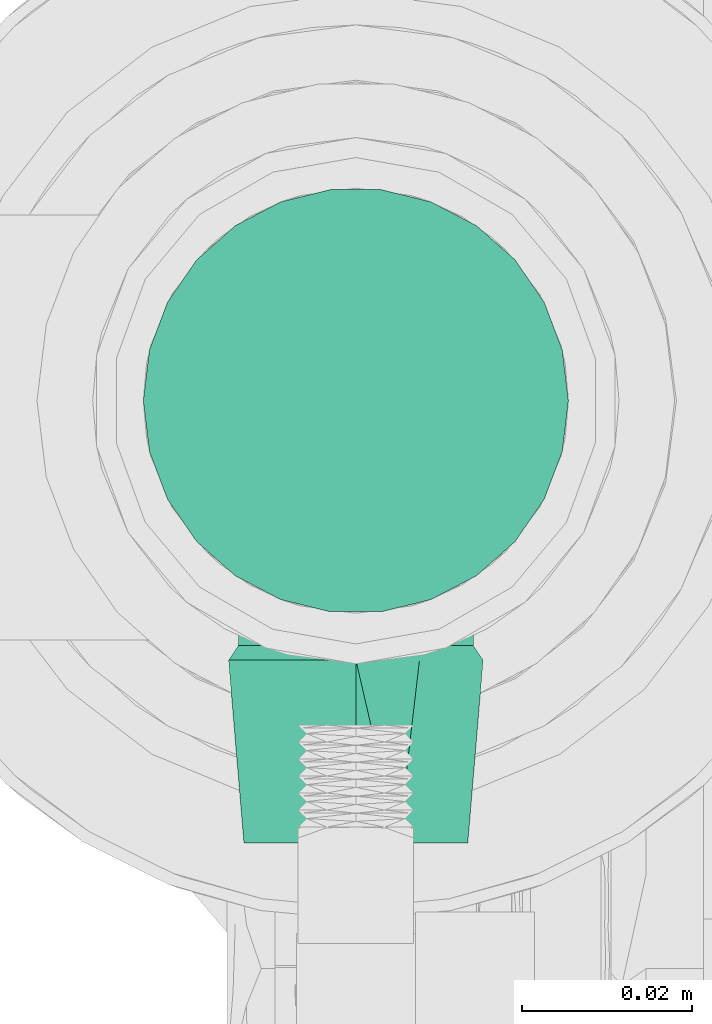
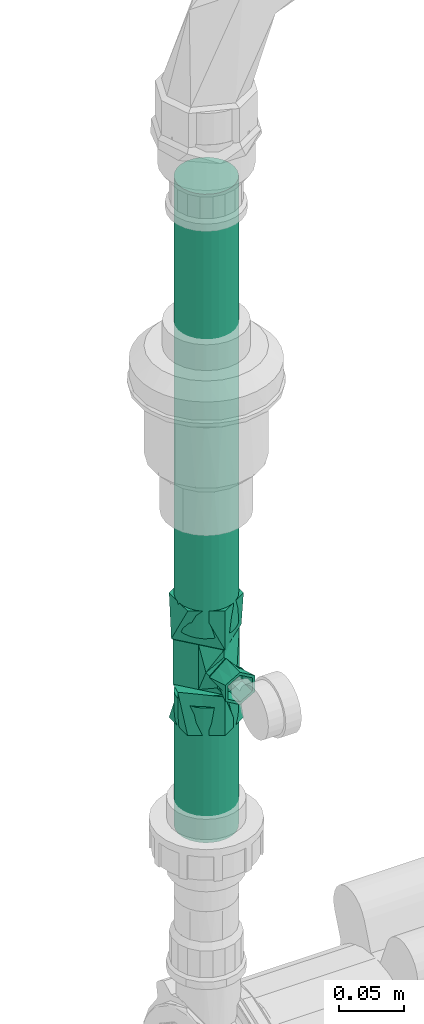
# One storey, part 69 of 166: 2 flow segments, 1 flow fitting.
"""IFC2X3 building model written with IfcOpenShell, lengths in metres."""

import ifcopenshell
import ifcopenshell.guid

model = None  # the IFC model being written
_history = None  # IfcOwnerHistory: only IFC2X3 demands one
_inside = {}  # id of a spatial element -> (the spatial element, [elements in it])
_under = {}  # id of a project, library or spatial element -> (it, [spatial elements below it])
_declared = {}  # id of a project -> (the project, [libraries it declares])
_typed = {}  # id of a type object -> (the type object, [elements of that type])
_made_of = {}  # id of a material, layer set ... -> (it, [elements and type objects made of it])


def new_model(schema):
    """Start an empty IFC model of exactly this schema.

    Asked for "IFC4X3", IfcOpenShell would pick the latest addendum, in which some entities
    have other attributes; the version numbers below select the first issue.
    IFC2X3 requires an IfcOwnerHistory on every rooted entity: one is made here for all.
    """
    global model, _history
    if schema == "IFC4X3":
        model = ifcopenshell.file(schema_version=(4, 3, 0, 0))
    else:
        model = ifcopenshell.file(schema=schema)
    _inside.clear()
    _under.clear()
    _declared.clear()
    _typed.clear()
    _made_of.clear()
    _history = None
    if model.schema == "IFC2X3":
        org = make("IfcOrganization", Name="unknown")
        user = make(
            "IfcPersonAndOrganization",
            ThePerson=make("IfcPerson", FamilyName="unknown"),
            TheOrganization=org,
        )
        app = make(
            "IfcApplication",
            ApplicationDeveloper=org,
            Version="unknown",
            ApplicationFullName="unknown",
            ApplicationIdentifier="unknown",
        )
        _history = make(
            "IfcOwnerHistory",
            OwningUser=user,
            OwningApplication=app,
            ChangeAction="ADDED",
            CreationDate=0,
        )
    return model


def make(cls, **values):
    """One entity of the class cls with the attributes given. An attribute that is None is left unset."""
    return model.create_entity(
        cls, **{name: value for name, value in values.items() if value is not None}
    )


def entity(cls, *values):
    """Any entity or typed value of the class cls, its attributes in the order of the schema. None: left unset."""
    e = model.create_entity(cls)
    for i, value in enumerate(values):
        if value is not None:
            e[i] = value
    return e


def rooted(cls, **values):
    """An entity with a GlobalId (a new one), such as an element, a storey or a relation."""
    return make(cls, GlobalId=ifcopenshell.guid.new(), OwnerHistory=_history, **values)


def si_unit(unit_type, name, prefix=None):
    """IfcSIUnit, for example si_unit("LENGTHUNIT", "METRE", prefix="MILLI")."""
    return make("IfcSIUnit", UnitType=unit_type, Prefix=prefix, Name=name)


def converted_unit(unit_type, name, factor, base, dimensions=None, offset=None):
    """IfcConversionBasedUnit, such as the inch: factor (a typed value) times the base unit."""
    return make(
        "IfcConversionBasedUnit"
        if offset is None
        else "IfcConversionBasedUnitWithOffset",
        ConversionOffset=offset,
        Dimensions=None
        if dimensions is None
        else entity("IfcDimensionalExponents", *dimensions),
        UnitType=unit_type,
        Name=name,
        ConversionFactor=make(
            "IfcMeasureWithUnit", ValueComponent=factor, UnitComponent=base
        ),
    )


def assignment(units):
    """IfcUnitAssignment: the units of a project."""
    return None if units is None else make("IfcUnitAssignment", Units=units)


def point(xyz):
    """IfcCartesianPoint."""
    return None if xyz is None else make("IfcCartesianPoint", Coordinates=xyz)


def direction(xyz):
    """IfcDirection."""
    return None if xyz is None else make("IfcDirection", DirectionRatios=xyz)


def frame(location, z_axis=None, x_axis=None):
    """IfcAxis2Placement3D, a coordinate frame: its origin and axes. An axis left out is left unset."""
    return make(
        "IfcAxis2Placement3D",
        Location=point(location),
        Axis=direction(z_axis),
        RefDirection=direction(x_axis),
    )


def frame_2d(location, x_axis=None):
    """IfcAxis2Placement2D, a coordinate frame in the plane: its origin and x axis."""
    return make(
        "IfcAxis2Placement2D", Location=point(location), RefDirection=direction(x_axis)
    )


def origin():
    """The frame at (0, 0, 0) with its axes left unset."""
    return frame((0.0, 0.0, 0.0))


def origin_2d_with_axis():
    """The frame at (0, 0) in the plane with the x axis (1, 0) written out."""
    return frame_2d((0.0, 0.0), x_axis=(1.0, 0.0))


def place(relative_to, where):
    """IfcLocalPlacement: puts the frame where relative to a parent placement (None: the world)."""
    return make(
        "IfcLocalPlacement", PlacementRelTo=relative_to, RelativePlacement=where
    )


def context(
    kind, dimensions, precision=None, world=None, true_north=None, identifier=None
):
    """IfcGeometricRepresentationContext, for example the 3D "Model" context."""
    return make(
        "IfcGeometricRepresentationContext",
        ContextIdentifier=identifier,
        ContextType=kind,
        CoordinateSpaceDimension=dimensions,
        Precision=precision,
        WorldCoordinateSystem=world,
        TrueNorth=true_north,
    )


def subcontext(parent, identifier, kind, view, scale=None):
    """IfcGeometricRepresentationSubContext, for example "Body" below "Model"."""
    return make(
        "IfcGeometricRepresentationSubContext",
        ContextIdentifier=identifier,
        ContextType=kind,
        ParentContext=parent,
        TargetScale=scale,
        TargetView=view,
    )


def project(units=None, contexts=None):
    """IfcProject with its units and contexts."""
    return rooted(
        "IfcProject",
        Name="project",
        RepresentationContexts=contexts,
        UnitsInContext=assignment(units),
    )


def spatial(cls, under=None, at=None, **own):
    """A site, building, storey or space (cls), placed at a placement, below another one or the project."""
    s = rooted(cls, ObjectPlacement=at, **own)
    if under is not None:
        _under.setdefault(under.id(), (under, []))[1].append(s)
    return s


def profile(cls, at=None, kind="AREA", **sizes):
    """A parametric profile (cls). Its sizes go by their IFC names, for example OverallWidth=200.0."""
    return make(cls, ProfileType=kind, Position=at, **sizes)


def circle(**sizes):
    """IfcCircleProfileDef."""
    return profile("IfcCircleProfileDef", **sizes)


def extrude(swept, where, along, depth):
    """IfcExtrudedAreaSolid: the profile swept, set in the frame where, extruded along a direction by depth."""
    return make(
        "IfcExtrudedAreaSolid",
        SweptArea=swept,
        Position=where,
        ExtrudedDirection=direction(along),
        Depth=depth,
    )


def faces_of(points, faces, orient=None, outer=None):
    """IfcFace entities. A face is a list of loops; a loop is a list of indices into points, from 0.

    orient and outer hold one flag for each loop. By default every Orientation is true, the
    first loop of a face is its IfcFaceOuterBound and the others are IfcFaceBound.
    """
    made = []
    for i, loops in enumerate(faces):
        bounds = []
        for j, loop in enumerate(loops):
            is_outer = j == 0 if outer is None else outer[i][j]
            bounds.append(
                make(
                    "IfcFaceOuterBound" if is_outer else "IfcFaceBound",
                    Bound=make("IfcPolyLoop", Polygon=[points[k] for k in loop]),
                    Orientation=True if orient is None else orient[i][j],
                )
            )
        made.append(make("IfcFace", Bounds=bounds))
    return made


def faceted_brep(points, faces, orient=None, outer=None, voids=None):
    """IfcFacetedBrep: a solid bounded by flat faces; with voids (closed shells), ...WithVoids."""
    shared = [point(p) for p in points]
    hull = make("IfcClosedShell", CfsFaces=faces_of(shared, faces, orient, outer))
    if voids is None:
        return make("IfcFacetedBrep", Outer=hull)
    return make(
        "IfcFacetedBrepWithVoids",
        Outer=hull,
        Voids=[
            make(cls, CfsFaces=faces_of(shared, fs, o, b)) for cls, fs, o, b in voids
        ],
    )


def shape(context_of_items, identifier, shape_type, items):
    """IfcShapeRepresentation: the items that make up one representation, for example the "Body"."""
    return make(
        "IfcShapeRepresentation",
        ContextOfItems=context_of_items,
        RepresentationIdentifier=identifier,
        RepresentationType=shape_type,
        Items=items,
    )


def source(mapping_origin, context_of_items, identifier, shape_type, items):
    """IfcRepresentationMap: a shape defined once, which mapped items show again and again."""
    return make(
        "IfcRepresentationMap",
        MappingOrigin=mapping_origin,
        MappedRepresentation=shape(context_of_items, identifier, shape_type, items),
    )


def transform(
    local_origin,
    x_axis=None,
    y_axis=None,
    z_axis=None,
    scale=None,
    scale2=None,
    scale3=None,
    uniform=True,
):
    """IfcCartesianTransformationOperator3D, or its non-uniform kind. x_axis, y_axis, z_axis: its Axis1, 2, 3."""
    if uniform:
        return make(
            "IfcCartesianTransformationOperator3D",
            Axis1=direction(x_axis),
            Axis2=direction(y_axis),
            LocalOrigin=point(local_origin),
            Scale=scale,
            Axis3=direction(z_axis),
        )
    return make(
        "IfcCartesianTransformationOperator3DnonUniform",
        Axis1=direction(x_axis),
        Axis2=direction(y_axis),
        LocalOrigin=point(local_origin),
        Scale=scale,
        Axis3=direction(z_axis),
        Scale2=scale2,
        Scale3=scale3,
    )


def mapped(mapping_source, mapping_target):
    """IfcMappedItem: shows the shape of a source again, moved by a transform."""
    return make(
        "IfcMappedItem", MappingSource=mapping_source, MappingTarget=mapping_target
    )


def material(Name=None, Category=None):
    """IfcMaterial."""
    return make("IfcMaterial", Name=Name, Category=Category)


def made_of(thing, what):
    """Note that an element or type object is made of a material, layer set ...; save() writes the relation."""
    if what is not None:
        _made_of.setdefault(what.id(), (what, []))[1].append(thing)
    return thing


def type_object(cls, material=None, **own):
    """A type object (cls), such as IfcWallType, which elements share."""
    return made_of(rooted(cls, **own), material)


def type_shapes(of_type, sources):
    """Give a type object the sources (RepresentationMaps) that its elements show as mapped items."""
    of_type.RepresentationMaps = sources


def element(
    cls,
    number,
    at=None,
    inside=None,
    cuts=None,
    type_object=None,
    material=None,
    context=None,
    identifier="Body",
    shape_type=None,
    held_by="IfcProductDefinitionShape",
    body=None,
    shapes=None,
    **own,
):
    """One element of the class cls, such as IfcWall. Its Tag is "e" and its number.

    at: its placement. inside: the storey or other place that contains it. cuts: it is an
    opening in that element (IfcRelVoidsElement). A single representation is given by context,
    identifier, shape_type and body (its items); several are given by shapes. held_by: the class
    of the entity that holds the representations. save() writes the other relations.
    """
    e = rooted(cls, Tag="e%d" % number, ObjectPlacement=at, **own)
    if body is not None:
        shapes = [shape(context, identifier, shape_type, body)]
    if shapes is not None:
        e.Representation = make(held_by, Representations=shapes)
    if inside is not None:
        _inside.setdefault(inside.id(), (inside, []))[1].append(e)
    if cuts is not None:
        rooted(
            "IfcRelVoidsElement", RelatingBuildingElement=cuts, RelatedOpeningElement=e
        )
    if type_object is not None:
        _typed.setdefault(type_object.id(), (type_object, []))[1].append(e)
    return made_of(e, material)


def aggregate(whole, parts):
    """IfcRelAggregates: a whole, such as a stair, and the parts it consists of."""
    return rooted("IfcRelAggregates", RelatingObject=whole, RelatedObjects=parts)


def save(model, path):
    """Write the relations noted so far, then the file.

    IfcRelAggregates (storeys below a building ...), IfcRelContainedInSpatialStructure (elements
    in a storey), IfcRelDefinesByType, IfcRelAssociatesMaterial and IfcRelDeclares: one each for
    every whole, place, type object, material and project.
    """
    for whole, parts in _under.values():
        aggregate(whole, parts)
    for where, things in _inside.values():
        rooted(
            "IfcRelContainedInSpatialStructure",
            RelatedElements=things,
            RelatingStructure=where,
        )
    for kind, things in _typed.values():
        rooted("IfcRelDefinesByType", RelatedObjects=things, RelatingType=kind)
    for what, things in _made_of.values():
        rooted("IfcRelAssociatesMaterial", RelatedObjects=things, RelatingMaterial=what)
    for by, libraries in _declared.values():
        rooted("IfcRelDeclares", RelatingContext=by, RelatedDefinitions=libraries)
    model.write(path)


model = new_model("IFC2X3")

# Units and contexts
model_context = context("Model", 3, precision=1e-05, world=origin(), true_north=direction((6.123233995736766e-17, 1.0)))
body_context = subcontext(model_context, "Body", "Model", "MODEL_VIEW")
ifc_project = project(units=[si_unit("LENGTHUNIT", "METRE"), converted_unit("PLANEANGLEUNIT", "DEGREE", entity("IfcPlaneAngleMeasure", 0.017453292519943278), si_unit("PLANEANGLEUNIT", "RADIAN"), dimensions=[0, 0, 0, 0, 0, 0, 0]), si_unit("AREAUNIT", "SQUARE_METRE")], contexts=[model_context])

# Site, building, storey
site_placement = place(None, origin())
site = spatial("IfcSite", under=ifc_project, at=site_placement, Name="Default", CompositionType="ELEMENT")
building_placement = place(site_placement, origin())
building = spatial("IfcBuilding", under=site, at=building_placement, Name="CASA DE ACOLHIDA PARA IDOSOS", CompositionType="ELEMENT")
storey_placement = place(building_placement, frame((0.0, 0.0, -1.7499999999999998)))
storey = spatial("IfcBuildingStorey", under=building, at=storey_placement, Name="IMPLANTAÇÃO DRENAGEM", CompositionType="ELEMENT", Elevation=-1.7499999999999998)

# Flow segments
pipe_segment_type = type_object("IfcPipeSegmentType", Name="Tipos de tubos:AF_Tubo Marrom Soldável", PredefinedType="NOTDEFINED")
flow_segment_1_placement = place(storey_placement, origin())
element("IfcFlowSegment", 1, at=flow_segment_1_placement, inside=storey, type_object=pipe_segment_type, Name="Tipos de tubos:AF_Tubo Marrom Soldável", ObjectType="Tipos de tubos:AF_Tubo Marrom Soldável", context=body_context, shape_type="SweptSolid", body=[
    extrude(circle(Radius=0.025, at=origin_2d_with_axis()), frame((-60.770762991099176, 7.052060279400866, 0.39098476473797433), z_axis=(0.0, 0.0, 1.0), x_axis=(-1.0, 0.0, 0.0)), (0.0, 0.0, 1.0), 0.1264152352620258),
])
flow_segment_2_placement = place(storey_placement, origin())
element("IfcFlowSegment", 2, at=flow_segment_2_placement, inside=storey, type_object=pipe_segment_type, Name="Tipos de tubos:AF_Tubo Marrom Soldável", ObjectType="Tipos de tubos:AF_Tubo Marrom Soldável", context=body_context, shape_type="SweptSolid", body=[
    extrude(circle(Radius=0.025, at=origin_2d_with_axis()), frame((-60.770762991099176, 7.052060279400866, 0.5826000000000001), z_axis=(0.0, 0.0, 1.0), x_axis=(-1.0, 0.0, 0.0)), (0.0, 0.0, 1.0), 0.4174723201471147),
])

# Flow fitting
ifc_material = material(Name="PVC Branco")
pipe_fitting_type = type_object("IfcPipeFittingType", Name="AF_Roscavel_Te_Reducao:Standard", PredefinedType="NOTDEFINED", material=ifc_material)
shared_shape = source(origin(), body_context, "Body", "Brep", [
    faceted_brep([(-0.022099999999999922, 0.022730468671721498, -0.007053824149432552), (-0.022099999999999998, 0.028649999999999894, 0.0), (-0.021, 0.027149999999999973, 0.0), (-0.02099999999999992, 0.019184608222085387, -0.006684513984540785), (-0.020999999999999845, 0.011219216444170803, -0.013369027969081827), (-0.022099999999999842, 0.0168109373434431, -0.014107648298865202), (-0.020999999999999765, 0.0032538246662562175, -0.02005354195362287), (-0.022099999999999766, 0.010891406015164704, -0.02116147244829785), (-0.020999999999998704, -0.015930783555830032, -0.013369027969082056), (-0.022099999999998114, -0.020244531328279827, -0.007053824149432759), (-0.022099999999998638, -0.01183906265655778, -0.01410764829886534), (-0.020999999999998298, -0.02051095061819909, -0.007911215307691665), (-0.02209999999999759, -0.02865000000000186, 0.0), (-0.020999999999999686, -0.004711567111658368, -0.02673805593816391), (-0.02209999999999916, -0.0034335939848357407, -0.021161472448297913), (-0.022099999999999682, 0.004971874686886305, -0.028215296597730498), (-0.020999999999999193, -0.010321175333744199, -0.02005354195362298), (-0.02099999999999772, -0.027150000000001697, 0.0), (-0.02210000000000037, -0.022732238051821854, 0.007053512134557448), (-0.021000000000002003, -0.019182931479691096, 0.006684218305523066), (-0.021000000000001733, -0.011215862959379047, 0.013368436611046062), (-0.022100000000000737, -0.0168144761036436, 0.014107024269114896), (-0.021000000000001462, -0.0032487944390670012, 0.020052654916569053), (-0.022100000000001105, -0.010896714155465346, 0.021160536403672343), (-0.022100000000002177, 0.020242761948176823, 0.007053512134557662), (-0.02100000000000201, 0.021542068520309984, 0.006684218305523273), (-0.022100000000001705, 0.0034282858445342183, 0.021160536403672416), (-0.021000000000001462, 0.010326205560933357, 0.020052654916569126), (-0.022100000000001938, 0.01183552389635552, 0.014107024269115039), (-0.021000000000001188, 0.004718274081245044, 0.02673687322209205), (-0.022100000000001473, -0.004978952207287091, 0.028214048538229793), (-0.021000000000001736, 0.01593413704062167, 0.013368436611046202), (-0.02099999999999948, 0.018449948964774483, 0.010369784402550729), (0.021, 0.027149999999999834, 0.0), (0.021000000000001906, 0.004718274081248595, 0.026736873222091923), (0.021000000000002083, 0.010326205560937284, 0.02005265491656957), (0.021000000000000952, 0.015934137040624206, 0.013368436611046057), (0.021000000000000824, 0.020511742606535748, 0.007912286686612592), (0.021, -0.027150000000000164, 0.0), (0.0024774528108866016, -0.023369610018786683, 0.013819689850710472), (0.008258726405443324, -0.025259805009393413, 0.006909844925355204), (0.014040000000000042, -0.027150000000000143, 0.0), (-0.014039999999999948, -0.02715000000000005, 0.0), (-0.008913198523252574, -0.02597661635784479, 0.004289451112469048), (-0.0057812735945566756, -0.02525980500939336, 0.0069098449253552), (0.021000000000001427, -0.01918293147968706, 0.006684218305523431), (0.021000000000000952, -0.011215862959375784, 0.013368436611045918), (0.02100000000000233, -0.00324879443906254, 0.020052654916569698), (0.02099999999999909, 0.019607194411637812, -0.006329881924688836), (0.020999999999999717, 0.011219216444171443, -0.013369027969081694), (0.02099999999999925, 0.003253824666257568, -0.02005354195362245), (0.020999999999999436, -0.004711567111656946, -0.02673805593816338), (-0.0024814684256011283, -0.023370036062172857, -0.013818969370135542), (0.020999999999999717, -0.015930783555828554, -0.013369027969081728), (0.008912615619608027, -0.025976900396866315, -0.004288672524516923), (0.005779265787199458, -0.025260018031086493, -0.006909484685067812), (-0.00826073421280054, -0.025260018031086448, -0.006909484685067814), (0.020999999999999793, -0.020510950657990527, -0.007911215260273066), (0.020999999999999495, -0.010321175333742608, -0.020053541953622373), (0.02210000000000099, 0.01681093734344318, 0.014107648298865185), (0.022100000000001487, 0.01089140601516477, 0.021161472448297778), (0.022100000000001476, -0.012730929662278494, 0.013359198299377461), (0.022100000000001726, -0.003879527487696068, 0.020787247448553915), (0.022100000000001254, -0.020690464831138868, 0.006679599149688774), (0.022100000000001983, 0.004971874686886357, 0.02821529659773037), (0.0221, 0.028650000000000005, 0.0), (0.022100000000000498, 0.022730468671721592, 0.007053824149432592), (0.022100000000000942, -0.011839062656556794, 0.014107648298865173), (0.022100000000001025, -0.02864999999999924, 0.0), (0.022099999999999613, -0.009809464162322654, -0.022456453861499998), (0.022099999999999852, -0.021644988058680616, -0.008349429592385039), (0.02209999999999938, 0.0034282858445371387, -0.02116053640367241), (0.022099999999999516, -0.004978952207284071, -0.028214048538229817), (0.02209999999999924, 0.011835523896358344, -0.014107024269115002), (0.0220999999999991, 0.02024276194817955, -0.0070535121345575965), (0.02209999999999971, -0.014639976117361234, -0.01669885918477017), (0.022100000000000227, -0.016814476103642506, -0.014107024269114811), (-0.058500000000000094, -0.014325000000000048, -0.024811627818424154), (-0.058500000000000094, -0.025, 0.0), (-0.058500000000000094, -0.01997114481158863, -0.00871023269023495), (-0.0585000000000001, -0.019870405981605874, -0.015206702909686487), (-0.058500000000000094, -0.012500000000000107, -0.021650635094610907), (-0.058500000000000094, 0.0, -0.02165063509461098), (-0.058500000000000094, 0.012499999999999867, -0.021650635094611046), (-0.0585000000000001, 0.0, -0.024811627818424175), (-0.058500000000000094, -0.028650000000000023, 0.0), (-0.0585000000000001, -0.018750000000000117, 0.01082531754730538), (-0.058500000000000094, -0.012500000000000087, 0.021650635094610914), (-0.0585000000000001, -0.021487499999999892, 0.012405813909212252), (-0.058500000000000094, -0.014324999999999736, 0.02481162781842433), (-0.058500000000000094, 0.0, 0.021650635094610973), (-0.058500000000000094, 0.012499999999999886, 0.021650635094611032), (-0.0585000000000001, 0.0, 0.02481162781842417), (-0.058500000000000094, 0.014325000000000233, 0.024811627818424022), (-0.0585000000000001, 0.019870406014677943, 0.015206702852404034), (-0.058500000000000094, 0.02864999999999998, 0.0), (-0.058500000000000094, 0.019971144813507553, 0.00871023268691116), (-0.058500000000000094, 0.025, 0.0), (-0.0585000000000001, 0.021487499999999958, -0.012405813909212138), (-0.058500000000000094, 0.014324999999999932, -0.0248116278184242), (-0.058500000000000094, 0.018749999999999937, -0.010825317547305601), (0.0585000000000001, 0.021487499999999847, 0.012405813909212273), (0.058500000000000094, 0.028650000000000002, 0.0), (0.058500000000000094, -0.028650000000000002, 0.0), (0.0585000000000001, -0.01987040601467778, 0.015206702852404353), (0.0585000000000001, -0.021487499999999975, -0.012405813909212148), (0.0585000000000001, 0.019870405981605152, -0.015206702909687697), (0.058500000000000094, 0.014325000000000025, -0.024811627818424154), (0.058500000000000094, 0.024999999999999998, 0.0), (0.058500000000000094, 0.019971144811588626, -0.00871023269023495), (0.058500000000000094, 0.012500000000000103, -0.021650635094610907), (0.058500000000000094, 0.0, -0.02165063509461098), (0.058500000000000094, -0.012499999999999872, -0.021650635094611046), (0.0585000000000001, 0.0, -0.024811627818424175), (0.0585000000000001, 0.01875000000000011, 0.01082531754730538), (0.058500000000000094, 0.012500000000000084, 0.021650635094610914), (0.058500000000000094, 0.014324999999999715, 0.02481162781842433), (0.058500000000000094, 0.0, 0.021650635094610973), (0.058500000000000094, -0.012499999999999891, 0.021650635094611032), (0.0585000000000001, 0.0, 0.02481162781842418), (0.058500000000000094, -0.014325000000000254, 0.024811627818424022), (0.058500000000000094, -0.019971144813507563, 0.00871023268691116), (0.058500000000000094, -0.025000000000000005, 0.0), (0.058500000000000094, -0.014324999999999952, -0.0248116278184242), (0.058500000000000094, -0.018749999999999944, -0.010825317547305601), (-0.032600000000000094, -0.025, 0.0), (-0.032600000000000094, -0.019971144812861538, 0.00871023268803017), (-0.032600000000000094, -0.012500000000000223, 0.021650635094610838), (-0.032600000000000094, 0.0, 0.021650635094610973), (-0.032600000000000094, 0.012499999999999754, 0.02165063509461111), (-0.032600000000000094, 0.018749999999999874, 0.010825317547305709), (-0.032600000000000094, 0.025, 0.0), (-0.032600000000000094, 0.019971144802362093, -0.008710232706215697), (-0.032600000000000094, 0.012500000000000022, -0.021650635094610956), (-0.032600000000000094, 0.0, -0.02165063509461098), (-0.032600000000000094, -0.012499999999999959, -0.021650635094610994), (-0.032600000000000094, -0.018749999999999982, -0.010825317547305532), (0.03260000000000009, -0.025, 0.0), (0.032600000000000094, -0.018749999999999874, 0.010825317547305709), (0.032600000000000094, -0.012499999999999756, 0.02165063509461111), (0.032600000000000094, 0.0, 0.021650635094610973), (0.032600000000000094, 0.012500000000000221, 0.021650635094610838), (0.032600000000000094, 0.019971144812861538, 0.00871023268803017), (0.032600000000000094, 0.025, 0.0), (0.032600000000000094, 0.018749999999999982, -0.010825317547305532), (0.032600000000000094, 0.012499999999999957, -0.021650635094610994), (0.032600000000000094, 0.0, -0.02165063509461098), (0.032600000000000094, -0.012500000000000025, -0.021650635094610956), (0.032600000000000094, -0.019971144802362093, -0.008710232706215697), (0.012500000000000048, -0.03589999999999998, 0.0), (0.006250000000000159, -0.035899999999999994, 0.010825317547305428), (-0.0062499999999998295, -0.03590000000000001, 0.010825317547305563), (-0.012499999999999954, -0.03590000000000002, 0.0), (-0.006249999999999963, -0.03590000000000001, -0.010825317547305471), (0.006250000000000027, -0.035899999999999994, -0.01082531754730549), (0.012500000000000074, -0.05199999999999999, 0.0), (0.006250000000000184, -0.052, 0.010825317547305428), (-0.006249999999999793, -0.05200000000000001, 0.01082531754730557), (-0.01249999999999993, -0.052000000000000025, 0.0), (-0.006249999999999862, -0.05200000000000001, -0.010825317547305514), (0.006250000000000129, -0.052, -0.010825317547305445), (-0.011620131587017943, -0.028800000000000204, -0.0028835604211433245), (-0.01403999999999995, -0.02880000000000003, 0.0), (-0.002436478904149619, -0.028800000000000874, -0.013826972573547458), (-0.008238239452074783, -0.02880000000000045, -0.006913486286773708), (0.0030428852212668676, -0.028800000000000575, -0.009228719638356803), (0.014040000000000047, -0.02879999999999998, 0.0), (0.008541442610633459, -0.02880000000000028, -0.004614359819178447), (0.005801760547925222, -0.02880000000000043, -0.006913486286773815), (0.011620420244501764, -0.028799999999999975, 0.002883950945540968), (0.002439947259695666, -0.028799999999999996, 0.01382636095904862), (0.008239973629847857, -0.028799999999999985, 0.00691318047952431), (-0.0030421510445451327, -0.028800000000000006, 0.00922698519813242), (-0.008541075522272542, -0.028800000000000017, 0.004613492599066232), (-0.005800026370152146, -0.028800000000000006, 0.006913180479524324), (0.0026415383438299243, -0.030500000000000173, 0.01496870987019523), (0.008920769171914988, -0.03050000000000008, 0.007484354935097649), (0.010065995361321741, -0.030500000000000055, 0.006119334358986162), (0.015200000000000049, -0.03049999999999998, 0.0), (-0.015199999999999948, -0.03050000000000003, 0.0), (-0.006279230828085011, -0.0305000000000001, 0.007484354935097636), (-0.0026377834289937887, -0.030500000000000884, -0.01496937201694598), (-0.008918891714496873, -0.03050000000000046, -0.007484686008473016), (-0.010065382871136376, -0.030500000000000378, -0.006118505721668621), (0.006281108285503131, -0.03050000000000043, -0.007484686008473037), (0.007600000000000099, -0.052, -0.01316358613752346), (0.012327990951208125, -0.05199999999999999, -0.004974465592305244), (0.0, -0.052000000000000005, -0.01316358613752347), (0.015200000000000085, -0.051999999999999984, 0.0), (0.011400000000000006, -0.05199999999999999, 0.00658179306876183), (0.007599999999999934, -0.052, 0.013163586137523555), (0.0, -0.052000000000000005, 0.013163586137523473), (-0.007600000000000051, -0.05200000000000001, 0.01316358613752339), (-0.012327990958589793, -0.052000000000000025, 0.00497446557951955), (-0.015199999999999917, -0.05200000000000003, 0.0), (-0.011399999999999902, -0.052000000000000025, -0.006581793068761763), (-0.007599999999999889, -0.05200000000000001, -0.013163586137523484)], [[[0, 1, 2]], [[3, 4, 5]], [[6, 7, 4]], [[8, 9, 10]], [[11, 12, 9]], [[13, 14, 15]], [[14, 16, 10]], [[16, 14, 13]], [[2, 3, 0]], [[9, 8, 11]], [[11, 17, 12]], [[7, 6, 15]], [[6, 13, 15]], [[5, 4, 7]], [[16, 8, 10]], [[3, 5, 0]], [[18, 12, 17]], [[19, 20, 21]], [[22, 23, 20]], [[1, 24, 25]], [[25, 2, 1]], [[26, 27, 28]], [[29, 26, 30]], [[27, 26, 29]], [[17, 19, 18]], [[23, 22, 30]], [[24, 28, 31]], [[22, 29, 30]], [[21, 20, 23]], [[27, 31, 28]], [[19, 21, 18]], [[24, 31, 32, 25]], [[33, 2, 25, 32, 31, 27, 29, 34, 35, 36, 37]], [[38, 39, 40, 41]], [[20, 42, 43, 44, 39]], [[39, 38, 45, 46]], [[20, 39, 46]], [[34, 29, 22, 20, 46, 47]], [[42, 20, 19, 17]], [[4, 3, 2, 33, 48, 49, 50, 51, 13, 6]], [[51, 52, 13]], [[53, 41, 54, 55, 52]], [[8, 52, 56, 42]], [[42, 17, 11, 8]], [[41, 53, 57, 38]], [[52, 51, 58, 53]], [[52, 8, 16, 13]], [[36, 35, 59, 37]], [[34, 60, 35]], [[46, 45, 61]], [[47, 46, 62]], [[38, 63, 45]], [[64, 34, 47]], [[65, 33, 66]], [[60, 34, 64]], [[46, 61, 67, 62]], [[64, 47, 62]], [[33, 37, 66]], [[37, 59, 66]], [[63, 38, 68]], [[63, 61, 45]], [[60, 59, 35]], [[51, 69, 58]], [[68, 38, 70]], [[51, 71, 72]], [[73, 49, 74]], [[75, 53, 58]], [[33, 65, 48]], [[50, 73, 71]], [[53, 75, 76, 70]], [[48, 74, 49]], [[73, 50, 49]], [[51, 50, 71]], [[38, 57, 53, 70]], [[48, 65, 74]], [[69, 51, 72]], [[69, 75, 58]], [[77, 78, 79]], [[78, 77, 80]], [[77, 79, 81]], [[77, 81, 82]], [[77, 82, 83]], [[83, 84, 77]], [[78, 80, 85]], [[85, 86, 78]], [[85, 87, 86]], [[87, 85, 88]], [[87, 88, 89]], [[89, 90, 87]], [[89, 91, 90]], [[91, 89, 92]], [[91, 92, 93]], [[91, 93, 94]], [[91, 94, 95]], [[95, 96, 91]], [[95, 97, 96]], [[97, 95, 98]], [[97, 98, 99]], [[99, 83, 100]], [[83, 99, 84]], [[99, 100, 97]], [[28, 94, 93]], [[94, 28, 24, 1]], [[1, 95, 94]], [[65, 101, 102]], [[12, 88, 85]], [[68, 103, 104]], [[89, 21, 23, 30]], [[21, 89, 88]], [[88, 12, 18, 21]], [[92, 30, 26, 28]], [[30, 92, 89]], [[28, 93, 92]], [[10, 80, 77]], [[80, 10, 9, 12]], [[12, 85, 80]], [[68, 105, 103]], [[1, 98, 95]], [[65, 102, 106]], [[99, 5, 7, 15]], [[5, 99, 98]], [[98, 1, 0, 5]], [[15, 77, 84, 99]], [[77, 15, 14, 10]], [[107, 108, 109]], [[108, 107, 106]], [[107, 109, 110]], [[107, 110, 111]], [[107, 111, 112]], [[112, 113, 107]], [[108, 106, 102]], [[102, 114, 108]], [[102, 115, 114]], [[115, 102, 101]], [[115, 101, 116]], [[116, 117, 115]], [[116, 118, 117]], [[118, 116, 119]], [[118, 119, 120]], [[118, 120, 104]], [[118, 104, 103]], [[103, 121, 118]], [[103, 122, 121]], [[122, 103, 105]], [[122, 105, 123]], [[123, 112, 124]], [[112, 123, 113]], [[123, 124, 122]], [[67, 104, 120]], [[104, 67, 61, 63, 68]], [[116, 59, 60, 64]], [[59, 116, 101]], [[101, 65, 66, 59]], [[64, 120, 119, 116]], [[120, 64, 62, 67]], [[73, 106, 107]], [[106, 73, 74, 65]], [[123, 76, 75, 69, 72]], [[76, 123, 105]], [[105, 68, 70, 76]], [[113, 72, 71, 73]], [[72, 113, 123]], [[73, 107, 113]], [[125, 126, 127, 128, 129, 130, 131, 132, 133, 134, 135, 136]], [[87, 127, 126, 125, 78, 86]], [[137, 138, 139, 118, 121, 122]], [[129, 128, 127, 87, 90, 91]], [[139, 140, 141, 115, 117, 118]], [[131, 130, 129, 91, 96, 97]], [[115, 141, 142, 143, 108, 114]], [[83, 133, 132, 131, 97, 100]], [[143, 144, 145, 110, 109, 108]], [[135, 134, 133, 83, 82, 81]], [[145, 146, 147, 112, 111, 110]], [[125, 136, 135, 81, 79, 78]], [[112, 147, 148, 137, 122, 124]], [[143, 142, 141, 140, 139, 138, 137, 148, 147, 146, 145, 144]], [[149, 150, 151, 152, 153, 154]], [[155, 156, 150, 149]], [[156, 157, 151, 150]], [[157, 158, 152, 151]], [[158, 159, 153, 152]], [[159, 160, 154, 153]], [[160, 155, 149, 154]], [[42, 161, 162]], [[56, 163, 164, 161]], [[163, 56, 52]], [[165, 163, 52]], [[166, 167, 41]], [[55, 167, 168, 165]], [[55, 54, 41, 167]], [[165, 52, 55]], [[56, 161, 42]], [[41, 169, 166]], [[40, 170, 171, 169]], [[170, 40, 39]], [[172, 170, 39]], [[162, 173, 42]], [[44, 173, 174, 172]], [[44, 43, 42, 173]], [[172, 39, 44]], [[40, 169, 41]], [[175, 176, 177, 178, 166, 169, 171, 170]], [[170, 172, 174, 173, 162, 179, 180, 175]], [[181, 182, 183, 179, 162, 161, 164, 163]], [[163, 165, 168, 167, 166, 178, 184, 181]], [[185, 155, 160]], [[155, 185, 186]], [[185, 160, 159]], [[159, 187, 185]], [[155, 186, 188]], [[156, 155, 188]], [[156, 188, 189]], [[156, 189, 190]], [[156, 190, 157]], [[157, 190, 191]], [[157, 191, 192]], [[157, 192, 193]], [[157, 193, 194]], [[194, 158, 157]], [[158, 194, 195]], [[158, 195, 196]], [[196, 159, 158]], [[159, 196, 187]], [[180, 193, 192]], [[180, 179, 193]], [[179, 194, 193]], [[178, 189, 188]], [[175, 190, 176]], [[176, 190, 189]], [[189, 178, 177, 176]], [[180, 191, 175]], [[175, 191, 190]], [[180, 192, 191]], [[184, 186, 185]], [[184, 178, 186]], [[178, 188, 186]], [[179, 195, 194]], [[181, 196, 182]], [[182, 196, 195]], [[195, 179, 183, 182]], [[181, 185, 187, 196]], [[181, 184, 185]]]),
])
type_shapes(pipe_fitting_type, [shared_shape])
flow_fitting_placement = place(storey_placement, frame((-60.770762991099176, 7.052060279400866, 0.55), z_axis=(-1.0, 0.0, 0.0), x_axis=(0.0, 0.0, 1.0)))
element("IfcFlowFitting", 3, at=flow_fitting_placement, inside=storey, type_object=pipe_fitting_type, material=ifc_material, Name="AF_Roscavel_Te_Reducao:Standard", ObjectType="AF_Roscavel_Te_Reducao:Standard", context=body_context, shape_type="MappedRepresentation", body=[
    mapped(shared_shape, transform((0.0, 0.0, 0.0), scale=1.0)),
])

save(model, "model.ifc")
